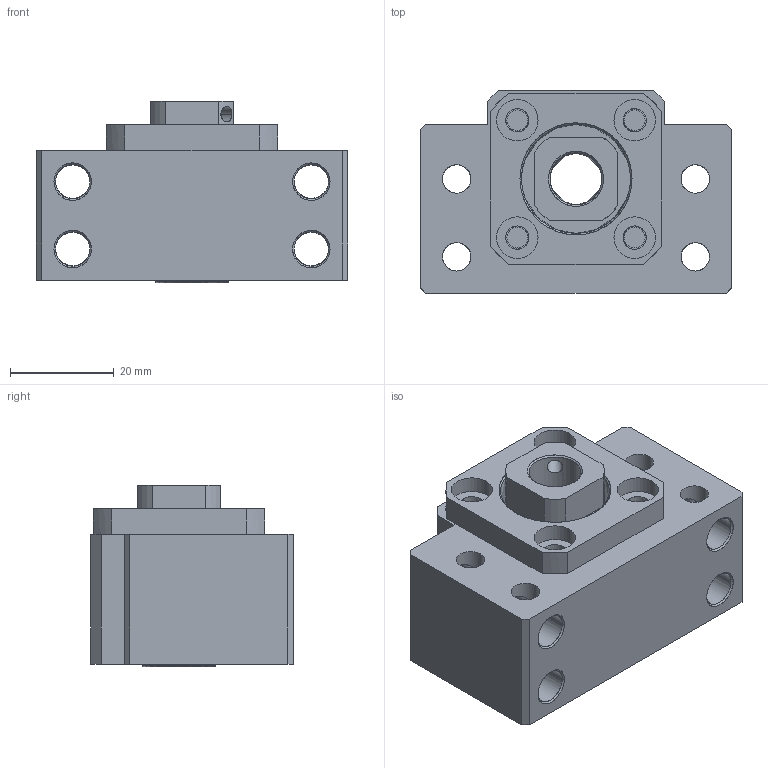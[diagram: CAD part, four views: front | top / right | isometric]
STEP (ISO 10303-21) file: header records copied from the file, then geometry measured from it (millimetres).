
FILE_DESCRIPTION((''),'2;1');
FILE_NAME('bk10','2004-09-18T11:08:28',(''),(''),'CADlook_v7.0','Cimatron E by Cimatron Inc.','');
FILE_SCHEMA(('AUTOMOTIVE_DESIGN { 1 2 10303 214 0 1 1 1 }'));
Length unit declared in the file: millimetre
Products named in the file (2): geom set
Bounding box: 60 x 39 x 35 mm (x, y, z)
Surface area: 22877 mm2 (no closed solid volume)
Topology: 0 solids, 219 shells, 219 faces, 1518 edges, 2024 vertices
Faces by surface type: cylinder 72, bspline 62, plane 51, torus 32, cone 2
Entity records: 26355 total; most frequent: CARTESIAN_POINT 9665, DIRECTION 2258, VERTEX_POINT 1012, EDGE_CURVE 1012, ORIENTED_EDGE 1012, COLOUR_RGB 944, PRESENTATION_STYLE_ASSIGNMENT 944, STYLED_ITEM 944
